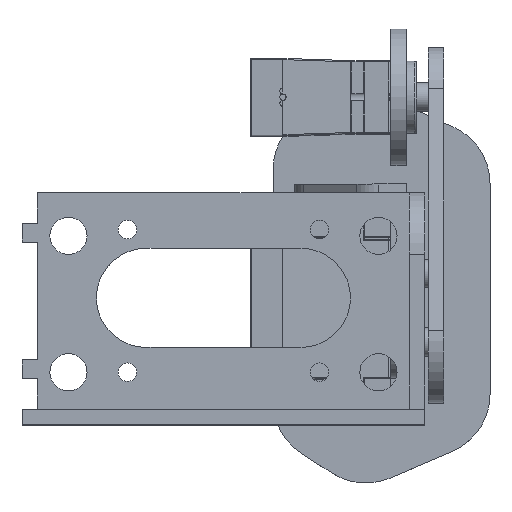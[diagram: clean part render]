
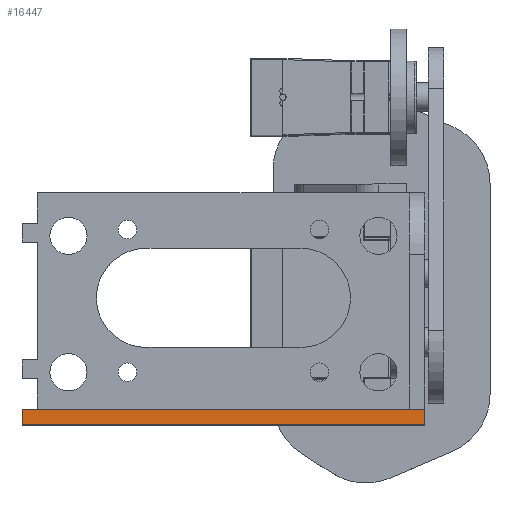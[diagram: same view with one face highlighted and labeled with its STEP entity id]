
A CAD part, top view. The second image highlights one B-rep face of the part: STEP entity #16447.
In plain terms, the highlighted planar face has unit normal (0, 0, 1).
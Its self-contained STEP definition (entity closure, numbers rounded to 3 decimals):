
#16342 = PLANE('',#16343);
#16343 = AXIS2_PLACEMENT_3D('',#16344,#16345,#16346);
#16344 = CARTESIAN_POINT('',(-34.5,-20.,20.));
#16345 = DIRECTION('',(-1.,-0.,0.));
#16346 = DIRECTION('',(0.,0.,1.));
#16367 = VERTEX_POINT('',#16368);
#16368 = CARTESIAN_POINT('',(-34.5,-22.5,25.));
#16382 = PLANE('',#16383);
#16383 = AXIS2_PLACEMENT_3D('',#16384,#16385,#16386);
#16384 = CARTESIAN_POINT('',(-2.,-22.5,2.5));
#16385 = DIRECTION('',(0.,1.,0.));
#16386 = DIRECTION('',(0.,0.,1.));
#16394 = EDGE_CURVE('',#16395,#16367,#16397,.T.);
#16395 = VERTEX_POINT('',#16396);
#16396 = CARTESIAN_POINT('',(-34.5,-20.,25.));
#16397 = SURFACE_CURVE('',#16398,(#16402,#16409),.PCURVE_S1.);
#16398 = LINE('',#16399,#16400);
#16399 = CARTESIAN_POINT('',(-34.5,-20.,25.));
#16400 = VECTOR('',#16401,1.);
#16401 = DIRECTION('',(0.,-1.,0.));
#16402 = PCURVE('',#16342,#16403);
#16403 = DEFINITIONAL_REPRESENTATION('',(#16404),#16408);
#16404 = LINE('',#16405,#16406);
#16405 = CARTESIAN_POINT('',(5.,0.));
#16406 = VECTOR('',#16407,1.);
#16407 = DIRECTION('',(0.,-1.));
#16408 = ( GEOMETRIC_REPRESENTATION_CONTEXT(2) 
PARAMETRIC_REPRESENTATION_CONTEXT() REPRESENTATION_CONTEXT('2D SPACE',''
  ) );
#16409 = PCURVE('',#16410,#16415);
#16410 = PLANE('',#16411);
#16411 = AXIS2_PLACEMENT_3D('',#16412,#16413,#16414);
#16412 = CARTESIAN_POINT('',(-34.5,-20.,25.));
#16413 = DIRECTION('',(0.,0.,1.));
#16414 = DIRECTION('',(1.,0.,0.));
#16415 = DEFINITIONAL_REPRESENTATION('',(#16416),#16420);
#16416 = LINE('',#16417,#16418);
#16417 = CARTESIAN_POINT('',(0.,0.));
#16418 = VECTOR('',#16419,1.);
#16419 = DIRECTION('',(0.,-1.));
#16420 = ( GEOMETRIC_REPRESENTATION_CONTEXT(2) 
PARAMETRIC_REPRESENTATION_CONTEXT() REPRESENTATION_CONTEXT('2D SPACE',''
  ) );
#16436 = PLANE('',#16437);
#16437 = AXIS2_PLACEMENT_3D('',#16438,#16439,#16440);
#16438 = CARTESIAN_POINT('',(-2.,-20.,2.5));
#16439 = DIRECTION('',(0.,1.,0.));
#16440 = DIRECTION('',(0.,0.,1.));
#16447 = ADVANCED_FACE('',(#16448),#16410,.T.);
#16448 = FACE_BOUND('',#16449,.T.);
#16449 = EDGE_LOOP('',(#16450,#16451,#16474,#16502));
#16450 = ORIENTED_EDGE('',*,*,#16394,.T.);
#16451 = ORIENTED_EDGE('',*,*,#16452,.T.);
#16452 = EDGE_CURVE('',#16367,#16453,#16455,.T.);
#16453 = VERTEX_POINT('',#16454);
#16454 = CARTESIAN_POINT('',(30.5,-22.5,25.));
#16455 = SURFACE_CURVE('',#16456,(#16460,#16467),.PCURVE_S1.);
#16456 = LINE('',#16457,#16458);
#16457 = CARTESIAN_POINT('',(-34.5,-22.5,25.));
#16458 = VECTOR('',#16459,1.);
#16459 = DIRECTION('',(1.,0.,0.));
#16460 = PCURVE('',#16410,#16461);
#16461 = DEFINITIONAL_REPRESENTATION('',(#16462),#16466);
#16462 = LINE('',#16463,#16464);
#16463 = CARTESIAN_POINT('',(0.,-2.5));
#16464 = VECTOR('',#16465,1.);
#16465 = DIRECTION('',(1.,0.));
#16466 = ( GEOMETRIC_REPRESENTATION_CONTEXT(2) 
PARAMETRIC_REPRESENTATION_CONTEXT() REPRESENTATION_CONTEXT('2D SPACE',''
  ) );
#16467 = PCURVE('',#16382,#16468);
#16468 = DEFINITIONAL_REPRESENTATION('',(#16469),#16473);
#16469 = LINE('',#16470,#16471);
#16470 = CARTESIAN_POINT('',(22.5,-32.5));
#16471 = VECTOR('',#16472,1.);
#16472 = DIRECTION('',(0.,1.));
#16473 = ( GEOMETRIC_REPRESENTATION_CONTEXT(2) 
PARAMETRIC_REPRESENTATION_CONTEXT() REPRESENTATION_CONTEXT('2D SPACE',''
  ) );
#16474 = ORIENTED_EDGE('',*,*,#16475,.F.);
#16475 = EDGE_CURVE('',#16476,#16453,#16478,.T.);
#16476 = VERTEX_POINT('',#16477);
#16477 = CARTESIAN_POINT('',(30.5,-20.,25.));
#16478 = SURFACE_CURVE('',#16479,(#16483,#16490),.PCURVE_S1.);
#16479 = LINE('',#16480,#16481);
#16480 = CARTESIAN_POINT('',(30.5,-20.,25.));
#16481 = VECTOR('',#16482,1.);
#16482 = DIRECTION('',(0.,-1.,0.));
#16483 = PCURVE('',#16410,#16484);
#16484 = DEFINITIONAL_REPRESENTATION('',(#16485),#16489);
#16485 = LINE('',#16486,#16487);
#16486 = CARTESIAN_POINT('',(65.,0.));
#16487 = VECTOR('',#16488,1.);
#16488 = DIRECTION('',(0.,-1.));
#16489 = ( GEOMETRIC_REPRESENTATION_CONTEXT(2) 
PARAMETRIC_REPRESENTATION_CONTEXT() REPRESENTATION_CONTEXT('2D SPACE',''
  ) );
#16490 = PCURVE('',#16491,#16496);
#16491 = PLANE('',#16492);
#16492 = AXIS2_PLACEMENT_3D('',#16493,#16494,#16495);
#16493 = CARTESIAN_POINT('',(30.5,-20.,25.));
#16494 = DIRECTION('',(1.,0.,0.));
#16495 = DIRECTION('',(0.,0.,-1.));
#16496 = DEFINITIONAL_REPRESENTATION('',(#16497),#16501);
#16497 = LINE('',#16498,#16499);
#16498 = CARTESIAN_POINT('',(0.,0.));
#16499 = VECTOR('',#16500,1.);
#16500 = DIRECTION('',(0.,-1.));
#16501 = ( GEOMETRIC_REPRESENTATION_CONTEXT(2) 
PARAMETRIC_REPRESENTATION_CONTEXT() REPRESENTATION_CONTEXT('2D SPACE',''
  ) );
#16502 = ORIENTED_EDGE('',*,*,#16503,.F.);
#16503 = EDGE_CURVE('',#16395,#16476,#16504,.T.);
#16504 = SURFACE_CURVE('',#16505,(#16509,#16516),.PCURVE_S1.);
#16505 = LINE('',#16506,#16507);
#16506 = CARTESIAN_POINT('',(-34.5,-20.,25.));
#16507 = VECTOR('',#16508,1.);
#16508 = DIRECTION('',(1.,0.,0.));
#16509 = PCURVE('',#16410,#16510);
#16510 = DEFINITIONAL_REPRESENTATION('',(#16511),#16515);
#16511 = LINE('',#16512,#16513);
#16512 = CARTESIAN_POINT('',(0.,0.));
#16513 = VECTOR('',#16514,1.);
#16514 = DIRECTION('',(1.,0.));
#16515 = ( GEOMETRIC_REPRESENTATION_CONTEXT(2) 
PARAMETRIC_REPRESENTATION_CONTEXT() REPRESENTATION_CONTEXT('2D SPACE',''
  ) );
#16516 = PCURVE('',#16436,#16517);
#16517 = DEFINITIONAL_REPRESENTATION('',(#16518),#16522);
#16518 = LINE('',#16519,#16520);
#16519 = CARTESIAN_POINT('',(22.5,-32.5));
#16520 = VECTOR('',#16521,1.);
#16521 = DIRECTION('',(0.,1.));
#16522 = ( GEOMETRIC_REPRESENTATION_CONTEXT(2) 
PARAMETRIC_REPRESENTATION_CONTEXT() REPRESENTATION_CONTEXT('2D SPACE',''
  ) );
